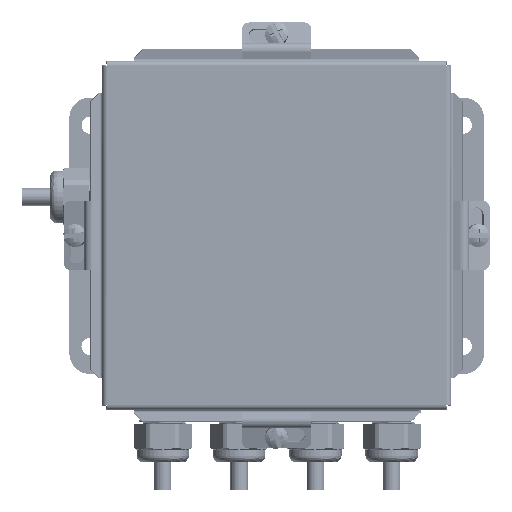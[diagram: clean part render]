
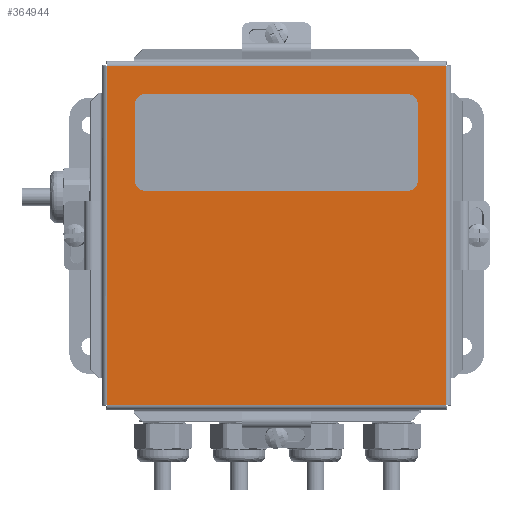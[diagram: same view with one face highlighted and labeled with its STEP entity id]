
A CAD part, top view. The second image highlights one B-rep face of the part: STEP entity #364944.
In plain terms, the highlighted planar face has unit normal (0, 0, 1) as drawn and (0, 0, -1) by its records, which use the part's own axes.
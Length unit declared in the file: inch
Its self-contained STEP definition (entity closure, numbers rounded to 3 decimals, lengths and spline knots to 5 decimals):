
#24329 = DIRECTION ( 'NONE',  ( 1., 0., 0. ) ) ;
#43261 = EDGE_CURVE ( 'NONE', #353341, #212816, #68508, .T. ) ;
#62534 = VERTEX_POINT ( 'NONE', #333163 ) ;
#68508 = LINE ( 'NONE', #298488, #69197 ) ;
#69197 = VECTOR ( 'NONE', #353745, 39.37008 ) ;
#83242 = FACE_OUTER_BOUND ( 'NONE', #200488, .T. ) ;
#86395 = ORIENTED_EDGE ( 'NONE', *, *, #43261, .T. ) ;
#88864 = CARTESIAN_POINT ( 'NONE',  ( 3.155, 3.155, 0. ) ) ;
#104127 = LINE ( 'NONE', #220053, #164288 ) ;
#107035 = ORIENTED_EDGE ( 'NONE', *, *, #167554, .T. ) ;
#158827 = EDGE_CURVE ( 'NONE', #212816, #345066, #104127, .T. ) ;
#160733 = CARTESIAN_POINT ( 'NONE',  ( 6.21625, 0.09375, 0. ) ) ;
#164288 = VECTOR ( 'NONE', #221926, 39.37008 ) ;
#167554 = EDGE_CURVE ( 'NONE', #62534, #353341, #316239, .T. ) ;
#172557 = DIRECTION ( 'NONE',  ( 0., 0., 1. ) ) ;
#200488 = EDGE_LOOP ( 'NONE', ( #202289, #230665, #107035, #86395 ) ) ;
#202289 = ORIENTED_EDGE ( 'NONE', *, *, #158827, .T. ) ;
#212656 = EDGE_CURVE ( 'NONE', #345066, #62534, #328626, .T. ) ;
#212816 = VERTEX_POINT ( 'NONE', #362857 ) ;
#220053 = CARTESIAN_POINT ( 'NONE',  ( 6.21625, 6.21625, 0. ) ) ;
#221926 = DIRECTION ( 'NONE',  ( 0., -1., 0. ) ) ;
#230665 = ORIENTED_EDGE ( 'NONE', *, *, #212656, .T. ) ;
#290325 = PLANE ( 'NONE',  #353445 ) ;
#298488 = CARTESIAN_POINT ( 'NONE',  ( 0.09375, 6.21625, 0. ) ) ;
#302383 = CARTESIAN_POINT ( 'NONE',  ( 0.09375, 6.21625, 0. ) ) ;
#303637 = CARTESIAN_POINT ( 'NONE',  ( 0.09375, 0.09375, 0. ) ) ;
#316239 = LINE ( 'NONE', #303637, #326857 ) ;
#322953 = CARTESIAN_POINT ( 'NONE',  ( 6.21625, 0.09375, 0. ) ) ;
#325665 = VECTOR ( 'NONE', #351546, 39.37008 ) ;
#326857 = VECTOR ( 'NONE', #344842, 39.37008 ) ;
#328626 = LINE ( 'NONE', #322953, #325665 ) ;
#333163 = CARTESIAN_POINT ( 'NONE',  ( 0.09375, 0.09375, 0. ) ) ;
#344842 = DIRECTION ( 'NONE',  ( 0., 1., 0. ) ) ;
#345066 = VERTEX_POINT ( 'NONE', #160733 ) ;
#351546 = DIRECTION ( 'NONE',  ( -1., 0., 0. ) ) ;
#353341 = VERTEX_POINT ( 'NONE', #302383 ) ;
#353445 = AXIS2_PLACEMENT_3D ( 'NONE', #88864, #172557, #24329 ) ;
#353745 = DIRECTION ( 'NONE',  ( 1., 0., 0. ) ) ;
#362857 = CARTESIAN_POINT ( 'NONE',  ( 6.21625, 6.21625, 0. ) ) ;
#364944 = ADVANCED_FACE ( 'NONE', ( #83242 ), #290325, .F. ) ;
